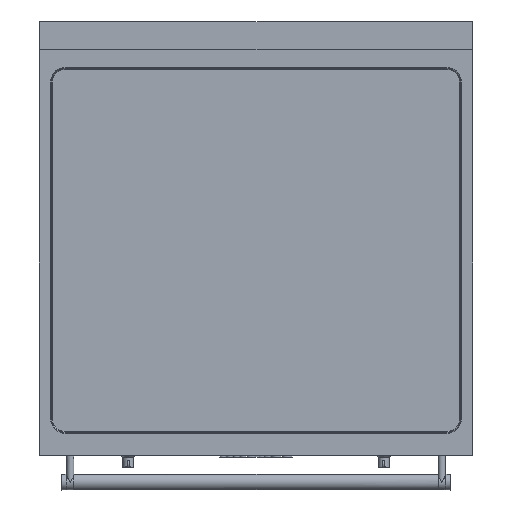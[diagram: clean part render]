
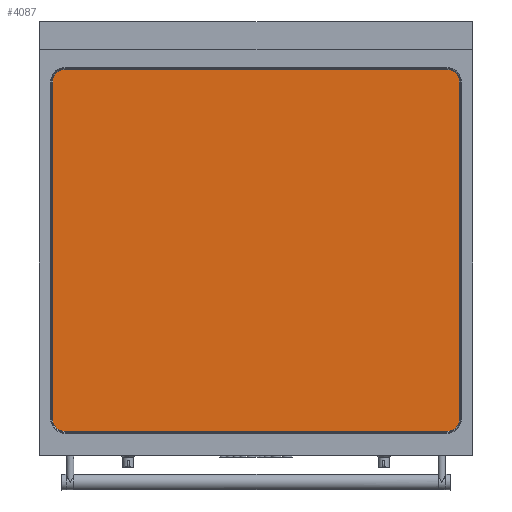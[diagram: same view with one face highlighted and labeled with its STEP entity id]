
A CAD part, top view. The second image highlights one B-rep face of the part: STEP entity #4087.
In plain terms, the highlighted planar face has unit normal (0, 0, 1).
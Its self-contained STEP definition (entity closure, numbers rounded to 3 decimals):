
#85=CIRCLE('',#6070,17.5);
#87=CIRCLE('',#6074,17.5);
#89=CIRCLE('',#6078,17.5);
#91=CIRCLE('',#6082,17.5);
#487=ORIENTED_EDGE('',*,*,#1665,.F.);
#488=ORIENTED_EDGE('',*,*,#1669,.T.);
#489=ORIENTED_EDGE('',*,*,#1672,.F.);
#490=ORIENTED_EDGE('',*,*,#1675,.T.);
#491=ORIENTED_EDGE('',*,*,#1678,.F.);
#492=ORIENTED_EDGE('',*,*,#1681,.T.);
#493=ORIENTED_EDGE('',*,*,#1684,.F.);
#494=ORIENTED_EDGE('',*,*,#1687,.T.);
#1665=EDGE_CURVE('',#2274,#2275,#2695,.T.);
#1669=EDGE_CURVE('',#2274,#2278,#85,.T.);
#1672=EDGE_CURVE('',#2280,#2278,#2700,.T.);
#1675=EDGE_CURVE('',#2280,#2282,#87,.T.);
#1678=EDGE_CURVE('',#2284,#2282,#2704,.T.);
#1681=EDGE_CURVE('',#2284,#2286,#89,.T.);
#1684=EDGE_CURVE('',#2288,#2286,#2708,.T.);
#1687=EDGE_CURVE('',#2288,#2275,#91,.T.);
#2274=VERTEX_POINT('',#7863);
#2275=VERTEX_POINT('',#7864);
#2278=VERTEX_POINT('',#7872);
#2280=VERTEX_POINT('',#7878);
#2282=VERTEX_POINT('',#7884);
#2284=VERTEX_POINT('',#7890);
#2286=VERTEX_POINT('',#7896);
#2288=VERTEX_POINT('',#7902);
#2695=LINE('',#7862,#3012);
#2700=LINE('',#7877,#3017);
#2704=LINE('',#7889,#3021);
#2708=LINE('',#7901,#3025);
#3012=VECTOR('',#6563,1000.);
#3017=VECTOR('',#6576,1000.);
#3021=VECTOR('',#6588,1000.);
#3025=VECTOR('',#6600,1000.);
#3338=EDGE_LOOP('',(#487,#488,#489,#490,#491,#492,#493,#494));
#3652=FACE_BOUND('',#3338,.T.);
#3962=PLANE('',#6085);
#4087=ADVANCED_FACE('',(#3652),#3962,.T.);
#6070=AXIS2_PLACEMENT_3D('',#7871,#6569,#6570);
#6074=AXIS2_PLACEMENT_3D('',#7883,#6581,#6582);
#6078=AXIS2_PLACEMENT_3D('',#7895,#6593,#6594);
#6082=AXIS2_PLACEMENT_3D('',#7907,#6605,#6606);
#6085=AXIS2_PLACEMENT_3D('',#7910,#6611,#6612);
#6563=DIRECTION('',(-1.,0.,0.));
#6569=DIRECTION('',(0.,0.,1.));
#6570=DIRECTION('',(1.,0.,0.));
#6576=DIRECTION('',(0.,-1.,0.));
#6581=DIRECTION('',(0.,0.,1.));
#6582=DIRECTION('',(1.,0.,0.));
#6588=DIRECTION('',(1.,0.,0.));
#6593=DIRECTION('',(0.,0.,1.));
#6594=DIRECTION('',(1.,0.,0.));
#6600=DIRECTION('',(0.,1.,0.));
#6605=DIRECTION('',(0.,0.,1.));
#6606=DIRECTION('',(1.,0.,0.));
#6611=DIRECTION('',(0.,0.,1.));
#6612=DIRECTION('',(1.,0.,0.));
#7862=CARTESIAN_POINT('',(562.,30.623,81.825));
#7863=CARTESIAN_POINT('',(562.,30.623,81.825));
#7864=CARTESIAN_POINT('',(36.,30.623,81.825));
#7871=CARTESIAN_POINT('',(562.,48.123,81.825));
#7872=CARTESIAN_POINT('',(579.5,48.123,81.825));
#7877=CARTESIAN_POINT('',(579.5,512.123,81.825));
#7878=CARTESIAN_POINT('',(579.5,512.123,81.825));
#7883=CARTESIAN_POINT('',(562.,512.123,81.825));
#7884=CARTESIAN_POINT('',(562.,529.623,81.825));
#7889=CARTESIAN_POINT('',(36.,529.623,81.825));
#7890=CARTESIAN_POINT('',(36.,529.623,81.825));
#7895=CARTESIAN_POINT('',(36.,512.123,81.825));
#7896=CARTESIAN_POINT('',(18.5,512.123,81.825));
#7901=CARTESIAN_POINT('',(18.5,48.123,81.825));
#7902=CARTESIAN_POINT('',(18.5,48.123,81.825));
#7907=CARTESIAN_POINT('',(36.,48.123,81.825));
#7910=CARTESIAN_POINT('',(36.,48.123,81.825));
